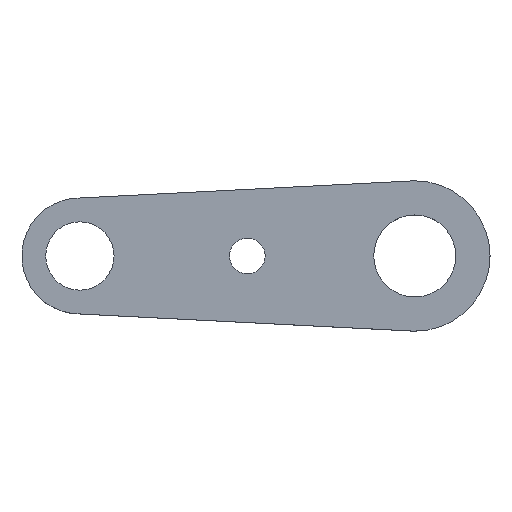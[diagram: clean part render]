
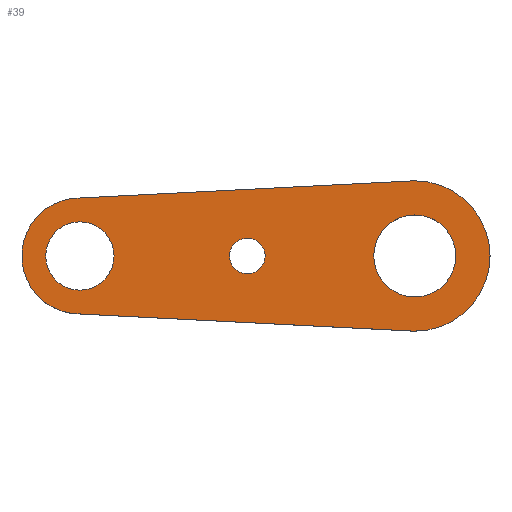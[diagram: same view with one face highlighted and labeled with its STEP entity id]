
A CAD part, top view. The second image highlights one B-rep face of the part: STEP entity #39.
In plain terms, the highlighted planar face has unit normal (0, 0, 1).
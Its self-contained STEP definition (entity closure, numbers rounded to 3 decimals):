
#39 = ADVANCED_FACE( '', ( #82, #83, #84, #85 ), #86, .F. );
#82 = FACE_BOUND( '', #133, .T. );
#83 = FACE_BOUND( '', #134, .T. );
#84 = FACE_BOUND( '', #135, .T. );
#85 = FACE_OUTER_BOUND( '', #136, .T. );
#86 = PLANE( '', #137 );
#133 = EDGE_LOOP( '', ( #182 ) );
#134 = EDGE_LOOP( '', ( #183 ) );
#135 = EDGE_LOOP( '', ( #184 ) );
#136 = EDGE_LOOP( '', ( #185, #186, #187, #188 ) );
#137 = AXIS2_PLACEMENT_3D( '', #189, #190, #191 );
#182 = ORIENTED_EDGE( '', *, *, #260, .T. );
#183 = ORIENTED_EDGE( '', *, *, #261, .T. );
#184 = ORIENTED_EDGE( '', *, *, #254, .T. );
#185 = ORIENTED_EDGE( '', *, *, #262, .F. );
#186 = ORIENTED_EDGE( '', *, *, #263, .F. );
#187 = ORIENTED_EDGE( '', *, *, #264, .F. );
#188 = ORIENTED_EDGE( '', *, *, #265, .F. );
#189 = CARTESIAN_POINT( '', ( -49., 0., 5. ) );
#190 = DIRECTION( '', ( 0., 0., -1. ) );
#191 = DIRECTION( '', ( -1., 0., 0. ) );
#254 = EDGE_CURVE( '', #285, #285, #286, .T. );
#260 = EDGE_CURVE( '', #295, #295, #296, .T. );
#261 = EDGE_CURVE( '', #297, #297, #298, .T. );
#262 = EDGE_CURVE( '', #299, #300, #301, .T. );
#263 = EDGE_CURVE( '', #302, #299, #303, .T. );
#264 = EDGE_CURVE( '', #304, #302, #305, .T. );
#265 = EDGE_CURVE( '', #300, #304, #306, .T. );
#285 = VERTEX_POINT( '', #332 );
#286 = CIRCLE( '', #333, 5. );
#295 = VERTEX_POINT( '', #342 );
#296 = CIRCLE( '', #343, 2.6 );
#297 = VERTEX_POINT( '', #344 );
#298 = CIRCLE( '', #345, 6. );
#299 = VERTEX_POINT( '', #346 );
#300 = VERTEX_POINT( '', #347 );
#301 = LINE( '', #348, #349 );
#302 = VERTEX_POINT( '', #350 );
#303 = CIRCLE( '', #351, 11. );
#304 = VERTEX_POINT( '', #352 );
#305 = LINE( '', #353, #354 );
#306 = CIRCLE( '', #355, 8.5 );
#332 = CARTESIAN_POINT( '', ( -44., 0., 5. ) );
#333 = AXIS2_PLACEMENT_3D( '', #386, #387, #388 );
#342 = CARTESIAN_POINT( '', ( -27.1, 0., 5. ) );
#343 = AXIS2_PLACEMENT_3D( '', #398, #399, #400 );
#344 = CARTESIAN_POINT( '', ( 6., 0., 5. ) );
#345 = AXIS2_PLACEMENT_3D( '', #401, #402, #403 );
#346 = CARTESIAN_POINT( '', ( 0., -11., 5. ) );
#347 = CARTESIAN_POINT( '', ( -48.799, -8.498, 5. ) );
#348 = CARTESIAN_POINT( '', ( -48.799, -8.498, 5. ) );
#349 = VECTOR( '', #404, 1000. );
#350 = CARTESIAN_POINT( '', ( 0., 11., 5. ) );
#351 = AXIS2_PLACEMENT_3D( '', #405, #406, #407 );
#352 = CARTESIAN_POINT( '', ( -48.799, 8.498, 5. ) );
#353 = CARTESIAN_POINT( '', ( -48.799, 8.498, 5. ) );
#354 = VECTOR( '', #408, 1000. );
#355 = AXIS2_PLACEMENT_3D( '', #409, #410, #411 );
#386 = CARTESIAN_POINT( '', ( -49., 0., 5. ) );
#387 = DIRECTION( '', ( 0., 0., -1. ) );
#388 = DIRECTION( '', ( 1., 0., 0. ) );
#398 = CARTESIAN_POINT( '', ( -24.5, 0., 5. ) );
#399 = DIRECTION( '', ( 0., 0., -1. ) );
#400 = DIRECTION( '', ( -1., 0., 0. ) );
#401 = CARTESIAN_POINT( '', ( 0., 0., 5. ) );
#402 = DIRECTION( '', ( 0., 0., -1. ) );
#403 = DIRECTION( '', ( 1., 0., 0. ) );
#404 = DIRECTION( '', ( -0.999, 0.051, 0. ) );
#405 = CARTESIAN_POINT( '', ( 0., 0., 5. ) );
#406 = DIRECTION( '', ( 0., 0., -1. ) );
#407 = DIRECTION( '', ( -1., 0., 0. ) );
#408 = DIRECTION( '', ( 0.999, 0.051, 0. ) );
#409 = CARTESIAN_POINT( '', ( -49., 0., 5. ) );
#410 = DIRECTION( '', ( 0., 0., -1. ) );
#411 = DIRECTION( '', ( 1., 0., 0. ) );
